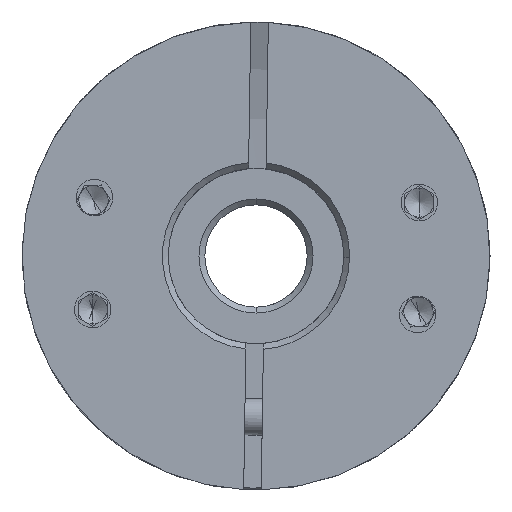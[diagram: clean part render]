
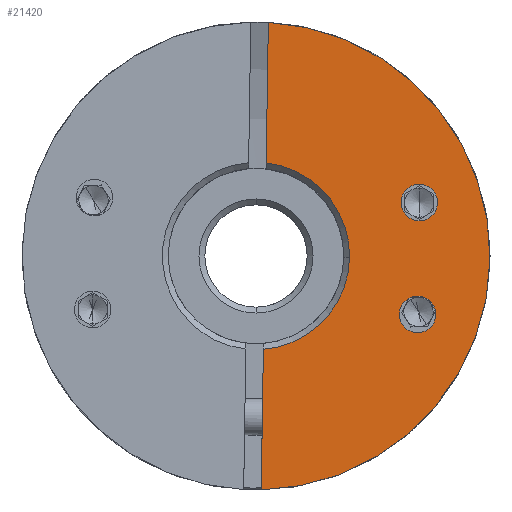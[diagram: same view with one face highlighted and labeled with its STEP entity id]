
A CAD part, front view. The second image highlights one B-rep face of the part: STEP entity #21420.
In plain terms, the highlighted planar face has unit normal (0, -1, 0).
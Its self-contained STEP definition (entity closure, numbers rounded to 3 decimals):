
#96 = VERTEX_POINT ( 'NONE', #13348 ) ;
#238 = CARTESIAN_POINT ( 'NONE',  ( -48.128, -19.411, -3.994 ) ) ;
#422 = CIRCLE ( 'NONE', #14041, 1.25 ) ;
#454 = EDGE_CURVE ( 'NONE', #2108, #96, #22655, .T. ) ;
#761 = CARTESIAN_POINT ( 'NONE',  ( -59.178, -19.411, 0. ) ) ;
#1253 = EDGE_CURVE ( 'NONE', #1486, #23693, #422, .T. ) ;
#1425 = CARTESIAN_POINT ( 'NONE',  ( -58.487, -19.411, 5.99 ) ) ;
#1438 = CIRCLE ( 'NONE', #18932, 1.25 ) ;
#1486 = VERTEX_POINT ( 'NONE', #4756 ) ;
#1604 = CARTESIAN_POINT ( 'NONE',  ( -43.18, -19.411, -0.243 ) ) ;
#1605 = ORIENTED_EDGE ( 'NONE', *, *, #1253, .T. ) ;
#2034 = CIRCLE ( 'NONE', #6040, 6.4 ) ;
#2108 = VERTEX_POINT ( 'NONE', #1604 ) ;
#2272 = VERTEX_POINT ( 'NONE', #13259 ) ;
#2397 = PLANE ( 'NONE',  #16721 ) ;
#2553 = CARTESIAN_POINT ( 'NONE',  ( -46.878, -19.411, -4.013 ) ) ;
#3027 = VECTOR ( 'NONE', #12532, 1000. ) ;
#3385 = CIRCLE ( 'NONE', #4390, 16. ) ;
#3498 = DIRECTION ( 'NONE',  ( 0., 1., 0. ) ) ;
#3741 = CARTESIAN_POINT ( 'NONE',  ( -58.675, -19.411, -6.38 ) ) ;
#4390 = AXIS2_PLACEMENT_3D ( 'NONE', #12552, #19717, #23704 ) ;
#4394 = EDGE_LOOP ( 'NONE', ( #18002, #8862, #18434, #22206, #22922, #15288 ) ) ;
#4565 = EDGE_LOOP ( 'NONE', ( #19906, #9425 ) ) ;
#4756 = CARTESIAN_POINT ( 'NONE',  ( -46.762, -19.411, 3.637 ) ) ;
#4775 = DIRECTION ( 'NONE',  ( 1., 0., -0.015 ) ) ;
#5436 = DIRECTION ( 'NONE',  ( 0., 1., 0. ) ) ;
#5520 = CARTESIAN_POINT ( 'NONE',  ( -52.779, -19.411, -0.097 ) ) ;
#5589 = EDGE_CURVE ( 'NONE', #2272, #9454, #2034, .T. ) ;
#5661 = DIRECTION ( 'NONE',  ( 1., 0., -0.015 ) ) ;
#6040 = AXIS2_PLACEMENT_3D ( 'NONE', #24156, #11110, #20569 ) ;
#6929 = VERTEX_POINT ( 'NONE', #23814 ) ;
#7288 = CIRCLE ( 'NONE', #9800, 6.4 ) ;
#7383 = DIRECTION ( 'NONE',  ( 0., 1., 0. ) ) ;
#8743 = FACE_BOUND ( 'NONE', #9041, .T. ) ;
#8862 = ORIENTED_EDGE ( 'NONE', *, *, #5589, .T. ) ;
#8875 = AXIS2_PLACEMENT_3D ( 'NONE', #238, #7383, #18532 ) ;
#9006 = DIRECTION ( 'NONE',  ( 0., -1., 0. ) ) ;
#9041 = EDGE_LOOP ( 'NONE', ( #23167, #1605 ) ) ;
#9079 = DIRECTION ( 'NONE',  ( 1., 0., -0.015 ) ) ;
#9425 = ORIENTED_EDGE ( 'NONE', *, *, #20207, .T. ) ;
#9454 = VERTEX_POINT ( 'NONE', #5520 ) ;
#9552 = VERTEX_POINT ( 'NONE', #22538 ) ;
#9800 = AXIS2_PLACEMENT_3D ( 'NONE', #16878, #18860, #5661 ) ;
#10648 = CARTESIAN_POINT ( 'NONE',  ( -48.012, -19.411, 3.656 ) ) ;
#10826 = CIRCLE ( 'NONE', #15446, 1.25 ) ;
#10954 = CARTESIAN_POINT ( 'NONE',  ( -59.178, -19.411, 0. ) ) ;
#11110 = DIRECTION ( 'NONE',  ( 0., 1., 0. ) ) ;
#12532 = DIRECTION ( 'NONE',  ( -0.015, 0., -1. ) ) ;
#12552 = CARTESIAN_POINT ( 'NONE',  ( -59.178, -19.411, 0. ) ) ;
#12644 = CARTESIAN_POINT ( 'NONE',  ( -49.261, -19.411, 3.675 ) ) ;
#13208 = EDGE_CURVE ( 'NONE', #20731, #9552, #17931, .T. ) ;
#13259 = CARTESIAN_POINT ( 'NONE',  ( -58.482, -19.411, 6.362 ) ) ;
#13348 = CARTESIAN_POINT ( 'NONE',  ( -58.336, -19.411, 15.978 ) ) ;
#14041 = AXIS2_PLACEMENT_3D ( 'NONE', #10648, #14308, #4775 ) ;
#14292 = CARTESIAN_POINT ( 'NONE',  ( -48.128, -19.411, -3.994 ) ) ;
#14308 = DIRECTION ( 'NONE',  ( 0., 1., 0. ) ) ;
#14707 = EDGE_CURVE ( 'NONE', #9454, #20731, #7288, .T. ) ;
#14740 = EDGE_CURVE ( 'NONE', #6929, #18133, #15419, .T. ) ;
#15050 = DIRECTION ( 'NONE',  ( -0.015, 0., -1. ) ) ;
#15128 = CARTESIAN_POINT ( 'NONE',  ( -58.487, -19.411, 5.99 ) ) ;
#15288 = ORIENTED_EDGE ( 'NONE', *, *, #454, .T. ) ;
#15419 = CIRCLE ( 'NONE', #8875, 1.25 ) ;
#15446 = AXIS2_PLACEMENT_3D ( 'NONE', #14292, #5436, #16175 ) ;
#16175 = DIRECTION ( 'NONE',  ( 1., 0., -0.015 ) ) ;
#16721 = AXIS2_PLACEMENT_3D ( 'NONE', #761, #17314, #19210 ) ;
#16878 = CARTESIAN_POINT ( 'NONE',  ( -59.178, -19.411, 0. ) ) ;
#17314 = DIRECTION ( 'NONE',  ( 0., -1., 0. ) ) ;
#17931 = LINE ( 'NONE', #1425, #3027 ) ;
#18002 = ORIENTED_EDGE ( 'NONE', *, *, #21335, .T. ) ;
#18133 = VERTEX_POINT ( 'NONE', #2553 ) ;
#18434 = ORIENTED_EDGE ( 'NONE', *, *, #14707, .T. ) ;
#18532 = DIRECTION ( 'NONE',  ( 1., 0., -0.015 ) ) ;
#18860 = DIRECTION ( 'NONE',  ( 0., 1., 0. ) ) ;
#18932 = AXIS2_PLACEMENT_3D ( 'NONE', #23731, #3498, #20078 ) ;
#18941 = FACE_BOUND ( 'NONE', #4565, .T. ) ;
#19210 = DIRECTION ( 'NONE',  ( 1., 0., -0.015 ) ) ;
#19232 = FACE_OUTER_BOUND ( 'NONE', #4394, .T. ) ;
#19717 = DIRECTION ( 'NONE',  ( 0., -1., 0. ) ) ;
#19906 = ORIENTED_EDGE ( 'NONE', *, *, #14740, .T. ) ;
#20078 = DIRECTION ( 'NONE',  ( 1., 0., -0.015 ) ) ;
#20207 = EDGE_CURVE ( 'NONE', #18133, #6929, #10826, .T. ) ;
#20569 = DIRECTION ( 'NONE',  ( 1., 0., -0.015 ) ) ;
#20614 = EDGE_CURVE ( 'NONE', #23693, #1486, #1438, .T. ) ;
#20731 = VERTEX_POINT ( 'NONE', #3741 ) ;
#21335 = EDGE_CURVE ( 'NONE', #96, #2272, #23617, .T. ) ;
#21420 = ADVANCED_FACE ( 'NONE', ( #19232, #8743, #18941 ), #2397, .T. ) ;
#22206 = ORIENTED_EDGE ( 'NONE', *, *, #13208, .T. ) ;
#22532 = EDGE_CURVE ( 'NONE', #9552, #2108, #3385, .T. ) ;
#22538 = CARTESIAN_POINT ( 'NONE',  ( -58.821, -19.411, -15.996 ) ) ;
#22655 = CIRCLE ( 'NONE', #23868, 16. ) ;
#22922 = ORIENTED_EDGE ( 'NONE', *, *, #22532, .T. ) ;
#23167 = ORIENTED_EDGE ( 'NONE', *, *, #20614, .T. ) ;
#23617 = LINE ( 'NONE', #15128, #23902 ) ;
#23693 = VERTEX_POINT ( 'NONE', #12644 ) ;
#23704 = DIRECTION ( 'NONE',  ( 1., 0., -0.015 ) ) ;
#23731 = CARTESIAN_POINT ( 'NONE',  ( -48.012, -19.411, 3.656 ) ) ;
#23814 = CARTESIAN_POINT ( 'NONE',  ( -49.378, -19.411, -3.975 ) ) ;
#23868 = AXIS2_PLACEMENT_3D ( 'NONE', #10954, #9006, #9079 ) ;
#23902 = VECTOR ( 'NONE', #15050, 1000. ) ;
#24156 = CARTESIAN_POINT ( 'NONE',  ( -59.178, -19.411, 0. ) ) ;
